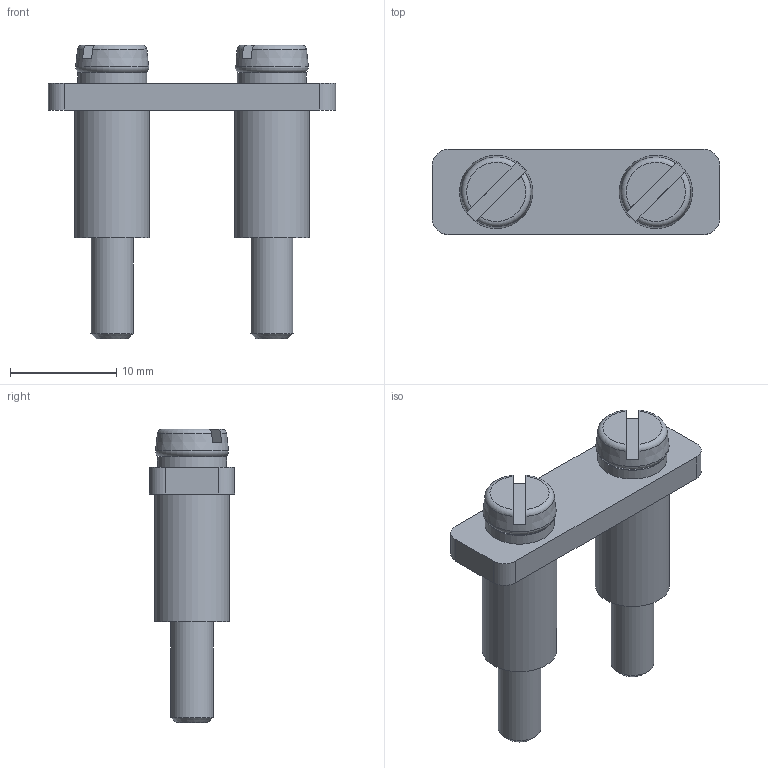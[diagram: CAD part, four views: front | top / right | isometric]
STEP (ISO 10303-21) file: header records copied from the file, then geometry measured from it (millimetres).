
FILE_DESCRIPTION(('STEP AP214'), '1');
FILE_NAME('Ìîñò Ì6-2 Ó3 Ñáîðêà', '2024-06-07T05:38:59', (''), (''), 'ASCON STEP Converter 1.6', 'ASCON Math Kernel', '');
FILE_SCHEMA(('AUTOMOTIVE_DESIGN { 1 0 10303 214 3 1 1}'));
Length unit declared in the file: millimetre
Products named in the file (1): Ìîñò Ì6-2 Ó3
Bounding box: 27 x 8 x 27.6 mm (x, y, z)
Volume: 1921.2 mm3; surface area: 1549.3 mm2
Topology: 1 solids, 1 shells, 42 faces, 92 edges, 60 vertices
Faces by surface type: plane 22, cylinder 10, torus 6, cone 4
Full cylindrical faces by diameter (mm): 4 x2, 6.5 x2, 7 x2
Entity records: 1584 total; most frequent: CARTESIAN_POINT 319, DIRECTION 190, ORIENTED_EDGE 160, AXIS2_PLACEMENT_3D 83, EDGE_CURVE 80, EDGE_LOOP 62, VERTEX_POINT 60, COLOUR_RGB 43
